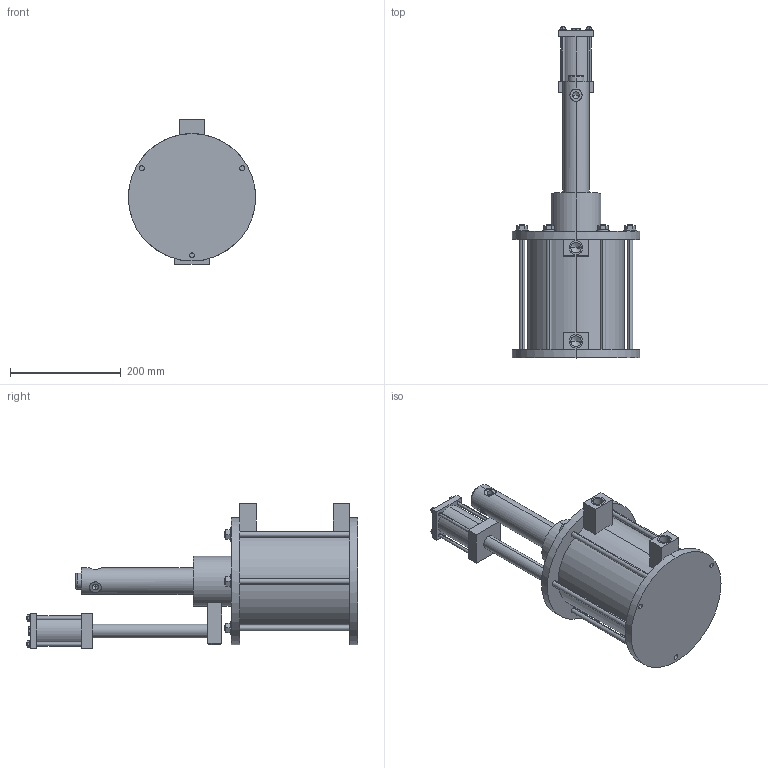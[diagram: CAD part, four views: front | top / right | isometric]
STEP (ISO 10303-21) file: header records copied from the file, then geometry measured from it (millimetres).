
FILE_DESCRIPTION (( 'STEP AP203' ), '1' );
FILE_NAME ('6110-208.STEP', '2016-01-29T10:37:38', ( '' ), ( '' ), 'SwSTEP 2.0', 'SolidWorks 2015', '' );
FILE_SCHEMA (( 'CONFIG_CONTROL_DESIGN' ));
Length unit declared in the file: millimetre
Products named in the file (1): 6110-208
Bounding box: 230 x 600 x 262 mm (x, y, z)
Volume: 2908889.8 mm3; surface area: 592792.2 mm2
Topology: 1 solids, 3 shells, 296 faces, 700 edges, 450 vertices
Faces by surface type: plane 160, cylinder 112, cone 22, torus 2
Entity records: 9159 total; most frequent: CARTESIAN_POINT 2091, DIRECTION 1490, ORIENTED_EDGE 1376, EDGE_CURVE 688, AXIS2_PLACEMENT_3D 539, VERTEX_POINT 450, LINE 412, VECTOR 412
